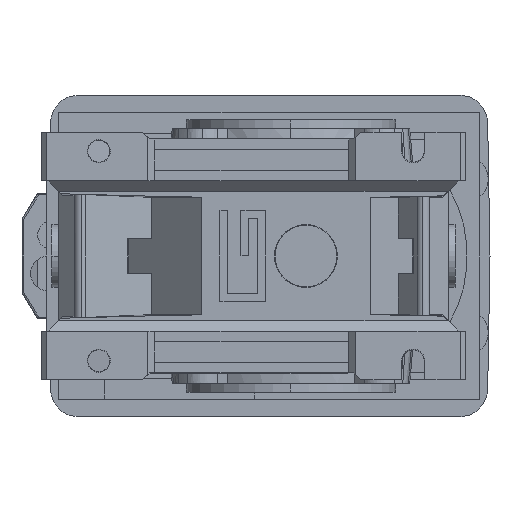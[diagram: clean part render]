
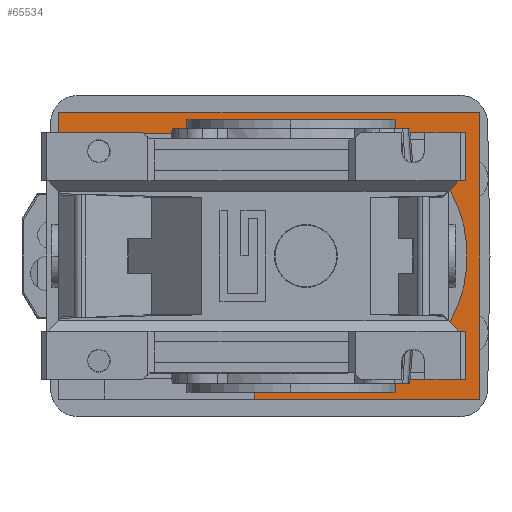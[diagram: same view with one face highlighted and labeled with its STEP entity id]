
A CAD part, front view. The second image highlights one B-rep face of the part: STEP entity #65534.
In plain terms, the highlighted planar face has unit normal (0, -1, 0) as drawn and (1, 0, 0) by its records, which use the part's own axes.
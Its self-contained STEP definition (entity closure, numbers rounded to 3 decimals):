
#331 = AXIS2_PLACEMENT_3D ( 'NONE', #36396, #42344, #1733 ) ;
#580 = ORIENTED_EDGE ( 'NONE', *, *, #59051, .T. ) ;
#882 = DIRECTION ( 'NONE',  ( 0., 0., 1. ) ) ;
#1723 = CARTESIAN_POINT ( 'NONE',  ( -72., 10.5, 35. ) ) ;
#1733 = DIRECTION ( 'NONE',  ( 0., 0., 1. ) ) ;
#1794 = DIRECTION ( 'NONE',  ( 0., 0., 1. ) ) ;
#2331 = AXIS2_PLACEMENT_3D ( 'NONE', #3838, #59752, #3504 ) ;
#3504 = DIRECTION ( 'NONE',  ( 0., 0., -1. ) ) ;
#3838 = CARTESIAN_POINT ( 'NONE',  ( -72., -12., 0. ) ) ;
#5412 = VERTEX_POINT ( 'NONE', #56500 ) ;
#5942 = ORIENTED_EDGE ( 'NONE', *, *, #11550, .F. ) ;
#7152 = LINE ( 'NONE', #47384, #39289 ) ;
#9200 = ORIENTED_EDGE ( 'NONE', *, *, #45217, .T. ) ;
#9939 = VECTOR ( 'NONE', #42724, 1000. ) ;
#10188 = EDGE_LOOP ( 'NONE', ( #25947, #22378, #34256, #39843, #46764, #59481, #9200, #5942, #15421, #580 ) ) ;
#10202 = LINE ( 'NONE', #59427, #26204 ) ;
#11550 = EDGE_CURVE ( 'NONE', #26567, #13972, #51257, .T. ) ;
#12046 = CARTESIAN_POINT ( 'NONE',  ( -72., -45., -35. ) ) ;
#12380 = FACE_OUTER_BOUND ( 'NONE', #10188, .T. ) ;
#12505 = CARTESIAN_POINT ( 'NONE',  ( -72., -45., -19.831 ) ) ;
#12630 = LINE ( 'NONE', #47258, #60586 ) ;
#13972 = VERTEX_POINT ( 'NONE', #12505 ) ;
#15421 = ORIENTED_EDGE ( 'NONE', *, *, #33918, .T. ) ;
#18036 = CARTESIAN_POINT ( 'NONE',  ( -72., -54., -35. ) ) ;
#20574 = EDGE_CURVE ( 'NONE', #26600, #62981, #22379, .T. ) ;
#21235 = VERTEX_POINT ( 'NONE', #62712 ) ;
#21663 = EDGE_CURVE ( 'NONE', #28981, #57438, #55825, .T. ) ;
#22113 = EDGE_CURVE ( 'NONE', #42807, #62981, #10202, .T. ) ;
#22378 = ORIENTED_EDGE ( 'NONE', *, *, #48466, .F. ) ;
#22379 = LINE ( 'NONE', #18036, #62225 ) ;
#24903 = CARTESIAN_POINT ( 'NONE',  ( -72., -54., 41. ) ) ;
#25947 = ORIENTED_EDGE ( 'NONE', *, *, #21663, .F. ) ;
#26204 = VECTOR ( 'NONE', #34176, 1000. ) ;
#26567 = VERTEX_POINT ( 'NONE', #31411 ) ;
#26600 = VERTEX_POINT ( 'NONE', #12046 ) ;
#28981 = VERTEX_POINT ( 'NONE', #63438 ) ;
#29610 = DIRECTION ( 'NONE',  ( 0., 1., 0. ) ) ;
#30262 = LINE ( 'NONE', #24903, #49115 ) ;
#31411 = CARTESIAN_POINT ( 'NONE',  ( -72., -45., 19.831 ) ) ;
#32397 = CARTESIAN_POINT ( 'NONE',  ( -72., -45., 35. ) ) ;
#33918 = EDGE_CURVE ( 'NONE', #26567, #51893, #46483, .T. ) ;
#34176 = DIRECTION ( 'NONE',  ( 0., 0., 1. ) ) ;
#34256 = ORIENTED_EDGE ( 'NONE', *, *, #41604, .F. ) ;
#34258 = CARTESIAN_POINT ( 'NONE',  ( -72., 10.5, 35. ) ) ;
#36039 = EDGE_CURVE ( 'NONE', #42807, #5412, #42401, .T. ) ;
#36396 = CARTESIAN_POINT ( 'NONE',  ( -72., -54., 35. ) ) ;
#36508 = CARTESIAN_POINT ( 'NONE',  ( -72., -45., 35. ) ) ;
#37815 = VECTOR ( 'NONE', #54518, 1000. ) ;
#39289 = VECTOR ( 'NONE', #1794, 1000. ) ;
#39843 = ORIENTED_EDGE ( 'NONE', *, *, #36039, .F. ) ;
#41604 = EDGE_CURVE ( 'NONE', #5412, #21235, #7152, .T. ) ;
#42286 = DIRECTION ( 'NONE',  ( 0., 0., 1. ) ) ;
#42344 = DIRECTION ( 'NONE',  ( -1., 0., 0. ) ) ;
#42401 = LINE ( 'NONE', #53032, #9939 ) ;
#42724 = DIRECTION ( 'NONE',  ( 0., -1., 0. ) ) ;
#42807 = VERTEX_POINT ( 'NONE', #51723 ) ;
#42902 = CARTESIAN_POINT ( 'NONE',  ( -72., 66.5, -35. ) ) ;
#44222 = CARTESIAN_POINT ( 'NONE',  ( -72., 66.5, 35. ) ) ;
#45182 = DIRECTION ( 'NONE',  ( 0., 1., 0. ) ) ;
#45217 = EDGE_CURVE ( 'NONE', #26600, #13972, #12630, .T. ) ;
#46483 = LINE ( 'NONE', #36508, #52294 ) ;
#46764 = ORIENTED_EDGE ( 'NONE', *, *, #22113, .T. ) ;
#47258 = CARTESIAN_POINT ( 'NONE',  ( -72., -45., 35. ) ) ;
#47322 = PLANE ( 'NONE',  #331 ) ;
#47384 = CARTESIAN_POINT ( 'NONE',  ( -72., -54., 35. ) ) ;
#48466 = EDGE_CURVE ( 'NONE', #21235, #28981, #30262, .T. ) ;
#49115 = VECTOR ( 'NONE', #45182, 1000. ) ;
#51257 = CIRCLE ( 'NONE', #2331, 38.5 ) ;
#51723 = CARTESIAN_POINT ( 'NONE',  ( -72., 66.5, -41. ) ) ;
#51893 = VERTEX_POINT ( 'NONE', #32397 ) ;
#52294 = VECTOR ( 'NONE', #882, 1000. ) ;
#53032 = CARTESIAN_POINT ( 'NONE',  ( -72., -54., -41. ) ) ;
#54518 = DIRECTION ( 'NONE',  ( 0., 0., -1. ) ) ;
#55500 = LINE ( 'NONE', #44222, #65808 ) ;
#55825 = LINE ( 'NONE', #34258, #37815 ) ;
#56500 = CARTESIAN_POINT ( 'NONE',  ( -72., -54., -41. ) ) ;
#57326 = DIRECTION ( 'NONE',  ( 0., 1., 0. ) ) ;
#57438 = VERTEX_POINT ( 'NONE', #1723 ) ;
#59051 = EDGE_CURVE ( 'NONE', #51893, #57438, #55500, .T. ) ;
#59427 = CARTESIAN_POINT ( 'NONE',  ( -72., 66.5, 35. ) ) ;
#59481 = ORIENTED_EDGE ( 'NONE', *, *, #20574, .F. ) ;
#59752 = DIRECTION ( 'NONE',  ( 1., 0., 0. ) ) ;
#60586 = VECTOR ( 'NONE', #42286, 1000. ) ;
#62225 = VECTOR ( 'NONE', #57326, 1000. ) ;
#62712 = CARTESIAN_POINT ( 'NONE',  ( -72., -54., 41. ) ) ;
#62981 = VERTEX_POINT ( 'NONE', #42902 ) ;
#63438 = CARTESIAN_POINT ( 'NONE',  ( -72., 10.5, 41. ) ) ;
#65534 = ADVANCED_FACE ( 'NONE', ( #12380 ), #47322, .F. ) ;
#65808 = VECTOR ( 'NONE', #29610, 1000. ) ;
